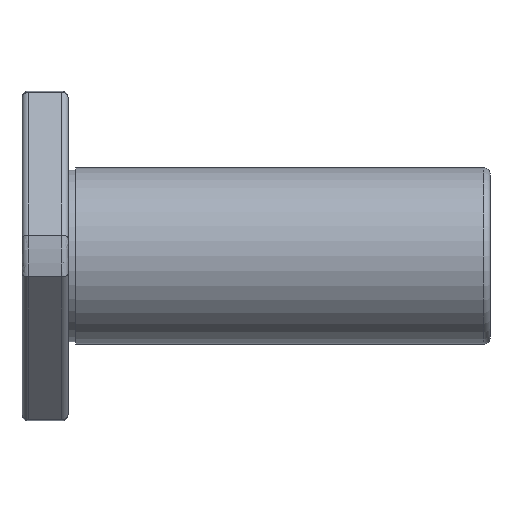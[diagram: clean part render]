
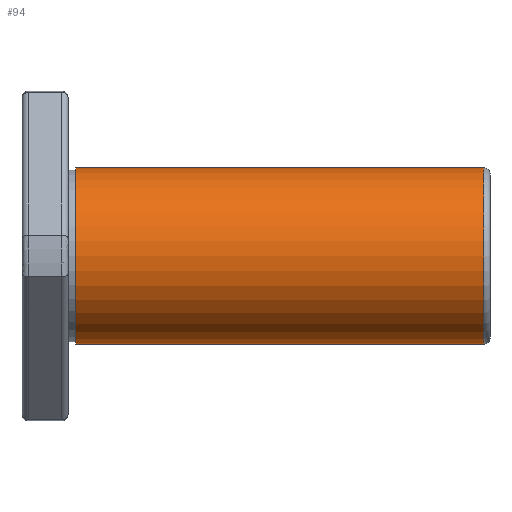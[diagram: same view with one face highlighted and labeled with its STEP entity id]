
A CAD part, front view. The second image highlights one B-rep face of the part: STEP entity #94.
In plain terms, the highlighted cylindrical face has radius 11.5 mm (diameter 23 mm), a full revolution.
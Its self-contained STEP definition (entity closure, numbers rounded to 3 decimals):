
#94 = ADVANCED_FACE( '', ( #229, #230 ), #231, .T. );
#229 = FACE_OUTER_BOUND( '', #412, .T. );
#230 = FACE_OUTER_BOUND( '', #413, .T. );
#231 = CYLINDRICAL_SURFACE( '', #414, 11.5 );
#412 = EDGE_LOOP( '', ( #631 ) );
#413 = EDGE_LOOP( '', ( #632 ) );
#414 = AXIS2_PLACEMENT_3D( '', #633, #634, #635 );
#631 = ORIENTED_EDGE( '', *, *, #958, .F. );
#632 = ORIENTED_EDGE( '', *, *, #961, .T. );
#633 = CARTESIAN_POINT( '', ( 18.9, 0., 0. ) );
#634 = DIRECTION( '', ( -1., 0., 0. ) );
#635 = DIRECTION( '', ( 0., 1., 0. ) );
#958 = EDGE_CURVE( '', #1127, #1127, #1128, .F. );
#961 = EDGE_CURVE( '', #1132, #1132, #1133, .F. );
#1127 = VERTEX_POINT( '', #1363 );
#1128 = CIRCLE( '', #1364, 11.5 );
#1132 = VERTEX_POINT( '', #1368 );
#1133 = CIRCLE( '', #1369, 11.5 );
#1363 = CARTESIAN_POINT( '', ( 7., 0., -11.5 ) );
#1364 = AXIS2_PLACEMENT_3D( '', #1656, #1657, #1658 );
#1368 = CARTESIAN_POINT( '', ( 60.2, 11.5, 0. ) );
#1369 = AXIS2_PLACEMENT_3D( '', #1662, #1663, #1664 );
#1656 = CARTESIAN_POINT( '', ( 7., 0., 0. ) );
#1657 = DIRECTION( '', ( 1., 0., 0. ) );
#1658 = DIRECTION( '', ( 0., 0., -1. ) );
#1662 = CARTESIAN_POINT( '', ( 60.2, 0., 0. ) );
#1663 = DIRECTION( '', ( 1., 0., 0. ) );
#1664 = DIRECTION( '', ( 0., 0., -1. ) );
